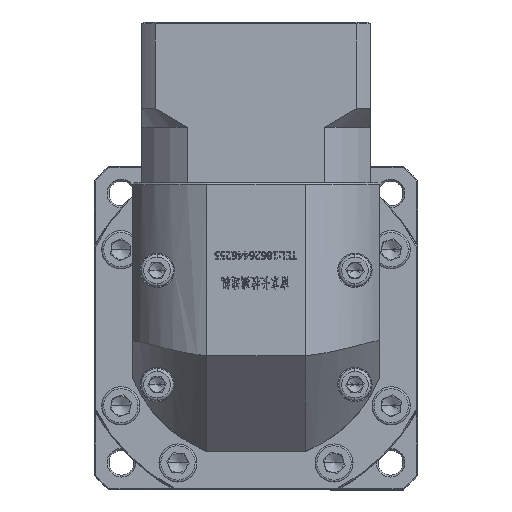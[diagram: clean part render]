
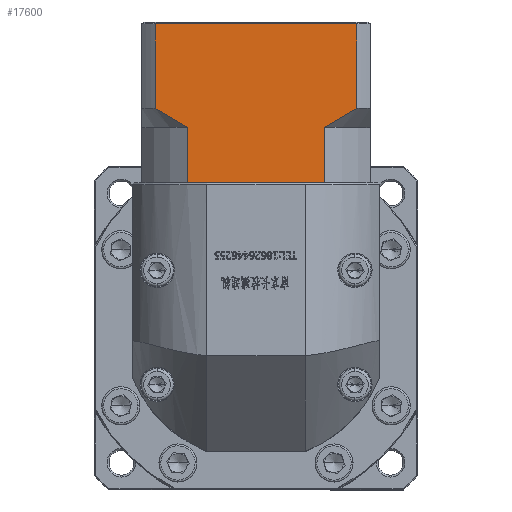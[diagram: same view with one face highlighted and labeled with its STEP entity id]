
A CAD part, top view. The second image highlights one B-rep face of the part: STEP entity #17600.
In plain terms, the highlighted planar face has unit normal (0, 0, 1).
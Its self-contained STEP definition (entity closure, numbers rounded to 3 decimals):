
#427 = B_SPLINE_CURVE_WITH_KNOTS ( 'NONE', 3,
 ( #91302, #51541, #105913, #25829, #119336, #39281 ),
 .UNSPECIFIED., .F., .F.,
 ( 4, 2, 4 ),
 ( 0.052, 0.057, 0.062 ),
 .UNSPECIFIED. ) ;
#6534 = LINE ( 'NONE', #146406, #144594 ) ;
#7169 = CARTESIAN_POINT ( 'NONE',  ( -116.111, 93.39, 54.801 ) ) ;
#8854 = VECTOR ( 'NONE', #48441, 1000. ) ;
#14367 = CARTESIAN_POINT ( 'NONE',  ( -116.111, 51.19, 54.801 ) ) ;
#15643 = CARTESIAN_POINT ( 'NONE',  ( -62.396, 68.915, 54.801 ) ) ;
#17600 = ADVANCED_FACE ( 'NONE', ( #21298 ), #127108, .F. ) ;
#18197 = ORIENTED_EDGE ( 'NONE', *, *, #97184, .F. ) ;
#20697 = DIRECTION ( 'NONE',  ( 0., 1., 0. ) ) ;
#21298 = FACE_OUTER_BOUND ( 'NONE', #72741, .T. ) ;
#25829 = CARTESIAN_POINT ( 'NONE',  ( -107.022, 67.241, 54.801 ) ) ;
#26351 = ORIENTED_EDGE ( 'NONE', *, *, #132221, .T. ) ;
#26589 = DIRECTION ( 'NONE',  ( 1., 0., 0. ) ) ;
#27870 = DIRECTION ( 'NONE',  ( 1., 0., 0. ) ) ;
#29085 = CARTESIAN_POINT ( 'NONE',  ( -59.653, 70.69, 54.801 ) ) ;
#32566 = ORIENTED_EDGE ( 'NONE', *, *, #143247, .F. ) ;
#33727 = VERTEX_POINT ( 'NONE', #132453 ) ;
#34977 = VECTOR ( 'NONE', #152654, 1000. ) ;
#34978 = CARTESIAN_POINT ( 'NONE',  ( -59.653, 65.69, 54.801 ) ) ;
#35407 = LINE ( 'NONE', #112816, #102310 ) ;
#37430 = VECTOR ( 'NONE', #77055, 1000. ) ;
#39281 = CARTESIAN_POINT ( 'NONE',  ( -104.138, 65.69, 54.801 ) ) ;
#40654 = DIRECTION ( 'NONE',  ( 0., 1., 0. ) ) ;
#40947 = LINE ( 'NONE', #14367, #143401 ) ;
#41659 = LINE ( 'NONE', #127127, #108649 ) ;
#43965 = ORIENTED_EDGE ( 'NONE', *, *, #146066, .T. ) ;
#45737 = EDGE_CURVE ( 'NONE', #85726, #160582, #141630, .T. ) ;
#48441 = DIRECTION ( 'NONE',  ( 0., -1., 0. ) ) ;
#51541 = CARTESIAN_POINT ( 'NONE',  ( -111.208, 69.79, 54.801 ) ) ;
#51712 = AXIS2_PLACEMENT_3D ( 'NONE', #7169, #100715, #20697 ) ;
#52866 = EDGE_CURVE ( 'NONE', #167918, #156585, #6534, .T. ) ;
#54310 = VERTEX_POINT ( 'NONE', #58678 ) ;
#55445 = CARTESIAN_POINT ( 'NONE',  ( -68.083, 65.69, 54.801 ) ) ;
#58514 = EDGE_CURVE ( 'NONE', #33727, #162496, #41659, .T. ) ;
#58678 = CARTESIAN_POINT ( 'NONE',  ( -112.568, 70.69, 54.801 ) ) ;
#59637 = CARTESIAN_POINT ( 'NONE',  ( -104.138, 65.69, 54.801 ) ) ;
#62311 = VECTOR ( 'NONE', #40654, 1000. ) ;
#63590 = CARTESIAN_POINT ( 'NONE',  ( -116.111, 92.89, 54.801 ) ) ;
#69406 = ORIENTED_EDGE ( 'NONE', *, *, #45737, .F. ) ;
#72741 = EDGE_LOOP ( 'NONE', ( #32566, #26351, #18197, #144188, #158577, #82871, #79668, #77209, #69406, #43965 ) ) ;
#73009 = LINE ( 'NONE', #63590, #37430 ) ;
#77055 = DIRECTION ( 'NONE',  ( -1., 0., 0. ) ) ;
#77209 = ORIENTED_EDGE ( 'NONE', *, *, #137584, .T. ) ;
#79668 = ORIENTED_EDGE ( 'NONE', *, *, #52866, .T. ) ;
#80054 = LINE ( 'NONE', #34978, #8854 ) ;
#82871 = ORIENTED_EDGE ( 'NONE', *, *, #131977, .T. ) ;
#84477 = VERTEX_POINT ( 'NONE', #84618 ) ;
#84618 = CARTESIAN_POINT ( 'NONE',  ( -59.653, 70.69, 54.801 ) ) ;
#85313 = CARTESIAN_POINT ( 'NONE',  ( -59.653, 92.89, 54.801 ) ) ;
#85726 = VERTEX_POINT ( 'NONE', #97105 ) ;
#88639 = CARTESIAN_POINT ( 'NONE',  ( -112.568, 92.89, 54.801 ) ) ;
#91302 = CARTESIAN_POINT ( 'NONE',  ( -112.568, 70.69, 54.801 ) ) ;
#95756 = CARTESIAN_POINT ( 'NONE',  ( -65.201, 67.241, 54.801 ) ) ;
#97105 = CARTESIAN_POINT ( 'NONE',  ( -68.083, 65.69, 54.801 ) ) ;
#97184 = EDGE_CURVE ( 'NONE', #54310, #157479, #164878, .T. ) ;
#98283 = CARTESIAN_POINT ( 'NONE',  ( -68.083, 51.19, 54.801 ) ) ;
#100715 = DIRECTION ( 'NONE',  ( 0., 0., -1. ) ) ;
#102310 = VECTOR ( 'NONE', #153108, 1000. ) ;
#105913 = CARTESIAN_POINT ( 'NONE',  ( -109.83, 68.917, 54.801 ) ) ;
#108649 = VECTOR ( 'NONE', #140509, 1000. ) ;
#109249 = CARTESIAN_POINT ( 'NONE',  ( -61.016, 69.789, 54.801 ) ) ;
#112816 = CARTESIAN_POINT ( 'NONE',  ( -116.111, 51.19, 54.801 ) ) ;
#119336 = CARTESIAN_POINT ( 'NONE',  ( -105.59, 66.438, 54.801 ) ) ;
#120767 = CARTESIAN_POINT ( 'NONE',  ( -112.568, 65.69, 54.801 ) ) ;
#122840 = EDGE_CURVE ( 'NONE', #54310, #162496, #427, .T. ) ;
#127108 = PLANE ( 'NONE',  #51712 ) ;
#127127 = CARTESIAN_POINT ( 'NONE',  ( -104.138, 65.69, 54.801 ) ) ;
#131977 = EDGE_CURVE ( 'NONE', #33727, #167918, #35407, .T. ) ;
#132221 = EDGE_CURVE ( 'NONE', #137249, #157479, #73009, .T. ) ;
#132453 = CARTESIAN_POINT ( 'NONE',  ( -104.138, 51.19, 54.801 ) ) ;
#133863 = CARTESIAN_POINT ( 'NONE',  ( -69.074, 51.19, 54.801 ) ) ;
#135462 = CARTESIAN_POINT ( 'NONE',  ( -66.626, 66.44, 54.801 ) ) ;
#137249 = VERTEX_POINT ( 'NONE', #85313 ) ;
#137584 = EDGE_CURVE ( 'NONE', #156585, #160582, #40947, .T. ) ;
#139219 = CARTESIAN_POINT ( 'NONE',  ( -68.083, 65.69, 54.801 ) ) ;
#140509 = DIRECTION ( 'NONE',  ( 0., 1., 0. ) ) ;
#141630 = LINE ( 'NONE', #139219, #34977 ) ;
#143247 = EDGE_CURVE ( 'NONE', #137249, #84477, #80054, .T. ) ;
#143401 = VECTOR ( 'NONE', #27870, 1000. ) ;
#144188 = ORIENTED_EDGE ( 'NONE', *, *, #122840, .T. ) ;
#144594 = VECTOR ( 'NONE', #26589, 1000. ) ;
#146066 = EDGE_CURVE ( 'NONE', #85726, #84477, #168865, .T. ) ;
#146406 = CARTESIAN_POINT ( 'NONE',  ( -116.111, 51.19, 54.801 ) ) ;
#152146 = CARTESIAN_POINT ( 'NONE',  ( -103.147, 51.19, 54.801 ) ) ;
#152654 = DIRECTION ( 'NONE',  ( 0., -1., 0. ) ) ;
#153108 = DIRECTION ( 'NONE',  ( 1., 0., 0. ) ) ;
#156585 = VERTEX_POINT ( 'NONE', #133863 ) ;
#157479 = VERTEX_POINT ( 'NONE', #88639 ) ;
#158577 = ORIENTED_EDGE ( 'NONE', *, *, #58514, .F. ) ;
#160582 = VERTEX_POINT ( 'NONE', #98283 ) ;
#162496 = VERTEX_POINT ( 'NONE', #59637 ) ;
#164878 = LINE ( 'NONE', #120767, #62311 ) ;
#167918 = VERTEX_POINT ( 'NONE', #152146 ) ;
#168865 = B_SPLINE_CURVE_WITH_KNOTS ( 'NONE', 3,
 ( #55445, #135462, #95756, #15643, #109249, #29085 ),
 .UNSPECIFIED., .F., .F.,
 ( 4, 2, 4 ),
 ( 0.1, 0.104, 0.109 ),
 .UNSPECIFIED. ) ;
